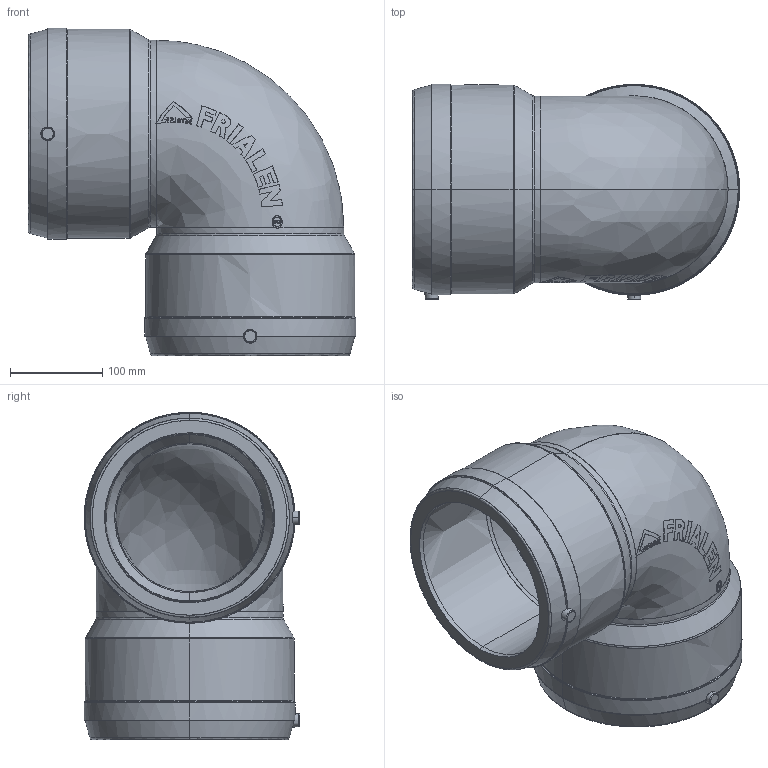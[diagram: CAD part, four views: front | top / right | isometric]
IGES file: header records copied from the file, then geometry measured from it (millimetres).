
Start section:  PTC IGES file: w90_d180_01.igs
Global section: file name: w90_d180_01.igs; native system: Pro/ENGINEER by Parametric Technology Corporation; preprocessor: 2011490; author: mtunjic; organization: Unknown; date: 20130812.090231; units: millimetre
Bounding box: 354 x 233.1 x 354 mm (x, y, z)
Surface area: 560861.5 mm2 (no closed solid volume)
Topology: 0 solids, 0 shells, 275 faces, 1388 edges, 1386 vertices
Faces by surface type: bspline 275
